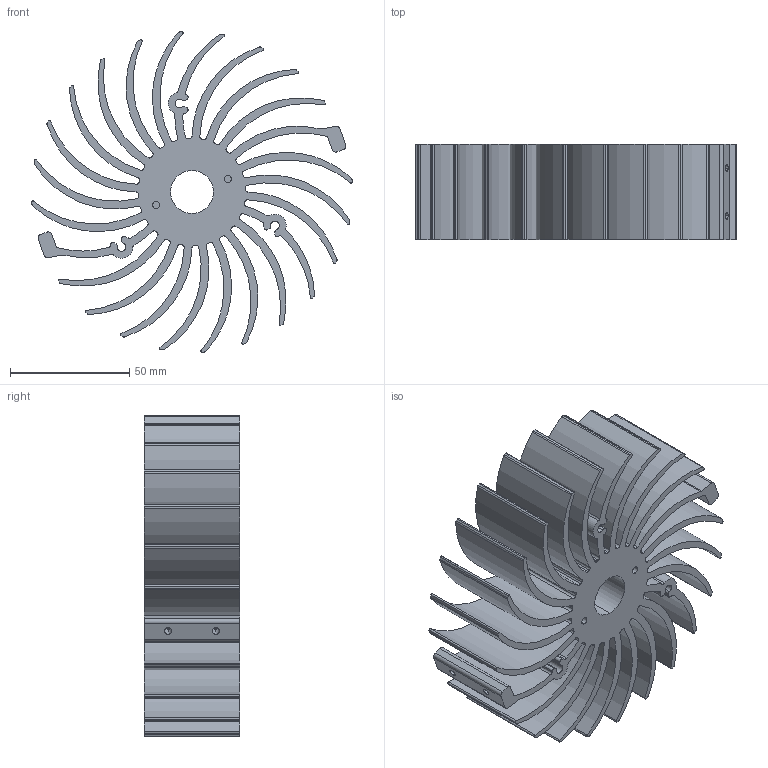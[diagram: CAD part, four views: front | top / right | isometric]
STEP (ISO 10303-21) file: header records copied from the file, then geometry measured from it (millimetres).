
FILE_DESCRIPTION((''),'2;1');
FILE_NAME('X00514_REVF','2012-06-04T',('Jonah'),(''),'PRO/ENGINEER BY PARAMETRIC TECHNOLOGY CORPORATION, 2010230','PRO/ENGINEER BY PARAMETRIC TECHNOLOGY CORPORATION, 2010230','');
FILE_SCHEMA(('CONFIG_CONTROL_DESIGN'));
Length unit declared in the file: millimetre
Products named in the file (1): X00514_REVF
Bounding box: 134.31 x 40 x 134.31 mm (x, y, z)
Volume: 198486.4 mm3; surface area: 115234.7 mm2
Topology: 1 solids, 1 shells, 285 faces, 828 edges, 552 vertices
Faces by surface type: cylinder 240, plane 45
Entity records: 9740 total; most frequent: DIRECTION 1878, CARTESIAN_POINT 1665, ORIENTED_EDGE 1656, EDGE_CURVE 828, AXIS2_PLACEMENT_3D 765, VERTEX_POINT 552, CIRCLE 480, VECTOR 348
